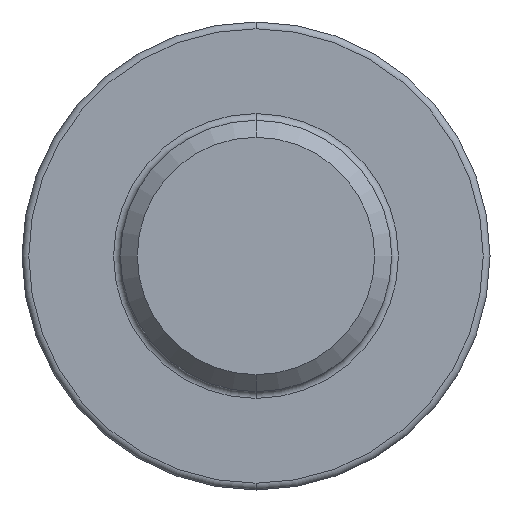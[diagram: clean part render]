
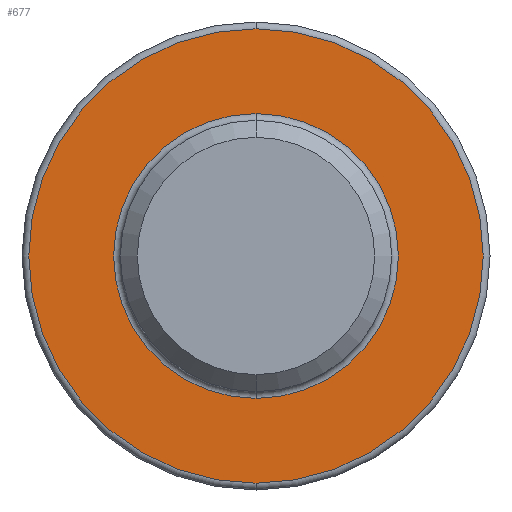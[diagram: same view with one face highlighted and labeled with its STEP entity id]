
A CAD part, front view. The second image highlights one B-rep face of the part: STEP entity #677.
In plain terms, the highlighted planar face has unit normal (0, -1, 0).
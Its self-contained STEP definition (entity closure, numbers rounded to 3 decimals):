
#26 = VERTEX_POINT ( 'NONE', #114 ) ;
#42 = DIRECTION ( 'NONE',  ( 0., 0., 1. ) ) ;
#73 = EDGE_CURVE ( 'NONE', #344, #26, #636, .T. ) ;
#114 = CARTESIAN_POINT ( 'NONE',  ( 0., -4.2, 6.7 ) ) ;
#137 = CARTESIAN_POINT ( 'NONE',  ( 0., -4.2, 0. ) ) ;
#139 = AXIS2_PLACEMENT_3D ( 'NONE', #164, #507, #777 ) ;
#164 = CARTESIAN_POINT ( 'NONE',  ( 0., -4.2, 0. ) ) ;
#182 = EDGE_LOOP ( 'NONE', ( #422, #301 ) ) ;
#183 = AXIS2_PLACEMENT_3D ( 'NONE', #137, #819, #823 ) ;
#228 = CIRCLE ( 'NONE', #789, 4.2 ) ;
#297 = EDGE_CURVE ( 'NONE', #387, #757, #324, .T. ) ;
#301 = ORIENTED_EDGE ( 'NONE', *, *, #73, .T. ) ;
#313 = CARTESIAN_POINT ( 'NONE',  ( 4., -4.2, 0. ) ) ;
#319 = EDGE_CURVE ( 'NONE', #26, #344, #518, .T. ) ;
#324 = CIRCLE ( 'NONE', #395, 4.2 ) ;
#344 = VERTEX_POINT ( 'NONE', #393 ) ;
#387 = VERTEX_POINT ( 'NONE', #667 ) ;
#393 = CARTESIAN_POINT ( 'NONE',  ( 0., -4.2, -6.7 ) ) ;
#394 = EDGE_LOOP ( 'NONE', ( #602, #592 ) ) ;
#395 = AXIS2_PLACEMENT_3D ( 'NONE', #698, #639, #498 ) ;
#401 = EDGE_CURVE ( 'NONE', #757, #387, #228, .T. ) ;
#422 = ORIENTED_EDGE ( 'NONE', *, *, #319, .T. ) ;
#467 = DIRECTION ( 'NONE',  ( 0., 1., 0. ) ) ;
#498 = DIRECTION ( 'NONE',  ( 0., 0., 1. ) ) ;
#507 = DIRECTION ( 'NONE',  ( 0., -1., 0. ) ) ;
#518 = CIRCLE ( 'NONE', #139, 6.7 ) ;
#588 = FACE_OUTER_BOUND ( 'NONE', #182, .T. ) ;
#592 = ORIENTED_EDGE ( 'NONE', *, *, #401, .T. ) ;
#602 = ORIENTED_EDGE ( 'NONE', *, *, #297, .T. ) ;
#636 = CIRCLE ( 'NONE', #183, 6.7 ) ;
#639 = DIRECTION ( 'NONE',  ( 0., 1., 0. ) ) ;
#644 = FACE_BOUND ( 'NONE', #394, .T. ) ;
#661 = CARTESIAN_POINT ( 'NONE',  ( 0., -4.2, 0. ) ) ;
#667 = CARTESIAN_POINT ( 'NONE',  ( 0., -4.2, 4.2 ) ) ;
#670 = DIRECTION ( 'NONE',  ( 0., 0., 1. ) ) ;
#677 = ADVANCED_FACE ( 'NONE', ( #644, #588 ), #719, .F. ) ;
#698 = CARTESIAN_POINT ( 'NONE',  ( 0., -4.2, 0. ) ) ;
#705 = AXIS2_PLACEMENT_3D ( 'NONE', #313, #793, #42 ) ;
#719 = PLANE ( 'NONE',  #705 ) ;
#757 = VERTEX_POINT ( 'NONE', #853 ) ;
#777 = DIRECTION ( 'NONE',  ( 0., 0., 1. ) ) ;
#789 = AXIS2_PLACEMENT_3D ( 'NONE', #661, #467, #670 ) ;
#793 = DIRECTION ( 'NONE',  ( 0., 1., 0. ) ) ;
#819 = DIRECTION ( 'NONE',  ( 0., -1., 0. ) ) ;
#823 = DIRECTION ( 'NONE',  ( 0., 0., 1. ) ) ;
#853 = CARTESIAN_POINT ( 'NONE',  ( 0., -4.2, -4.2 ) ) ;
